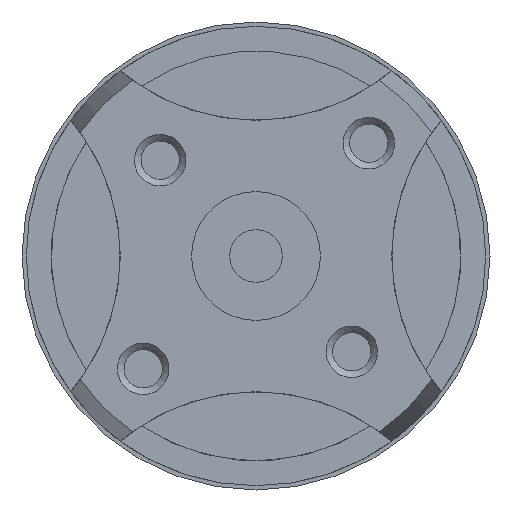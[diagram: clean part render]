
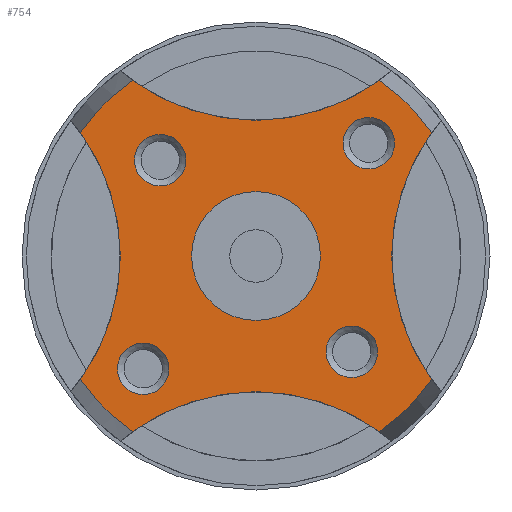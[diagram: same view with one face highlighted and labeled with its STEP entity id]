
A CAD part, front view. The second image highlights one B-rep face of the part: STEP entity #754.
In plain terms, the highlighted planar face has unit normal (0, -1, 0).
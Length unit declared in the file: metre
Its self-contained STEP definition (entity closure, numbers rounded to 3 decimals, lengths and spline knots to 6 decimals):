
#37=PLANE('',#925);
#73=CIRCLE('',#854,0.01246);
#77=CIRCLE('',#859,0.01246);
#81=CIRCLE('',#864,0.01246);
#85=CIRCLE('',#869,0.01246);
#88=CIRCLE('',#873,0.0127);
#89=CIRCLE('',#875,0.0127);
#92=CIRCLE('',#879,0.0127);
#122=CIRCLE('',#924,0.0127);
#123=CIRCLE('',#926,0.001524);
#124=CIRCLE('',#927,0.001524);
#125=CIRCLE('',#928,0.001524);
#126=CIRCLE('',#929,0.001524);
#127=CIRCLE('',#930,0.00381);
#252=ORIENTED_EDGE('',*,*,#426,.F.);
#253=ORIENTED_EDGE('',*,*,#427,.F.);
#254=ORIENTED_EDGE('',*,*,#428,.F.);
#255=ORIENTED_EDGE('',*,*,#429,.F.);
#256=ORIENTED_EDGE('',*,*,#383,.F.);
#257=ORIENTED_EDGE('',*,*,#387,.T.);
#258=ORIENTED_EDGE('',*,*,#367,.F.);
#259=ORIENTED_EDGE('',*,*,#391,.T.);
#260=ORIENTED_EDGE('',*,*,#359,.F.);
#261=ORIENTED_EDGE('',*,*,#425,.T.);
#262=ORIENTED_EDGE('',*,*,#375,.F.);
#263=ORIENTED_EDGE('',*,*,#388,.T.);
#264=ORIENTED_EDGE('',*,*,#430,.F.);
#359=EDGE_CURVE('',#460,#461,#73,.T.);
#367=EDGE_CURVE('',#468,#469,#77,.T.);
#375=EDGE_CURVE('',#476,#477,#81,.T.);
#383=EDGE_CURVE('',#484,#485,#85,.T.);
#387=EDGE_CURVE('',#484,#469,#88,.T.);
#388=EDGE_CURVE('',#476,#485,#89,.T.);
#391=EDGE_CURVE('',#468,#461,#92,.T.);
#425=EDGE_CURVE('',#460,#477,#122,.T.);
#426=EDGE_CURVE('',#507,#507,#123,.T.);
#427=EDGE_CURVE('',#508,#508,#124,.T.);
#428=EDGE_CURVE('',#509,#509,#125,.T.);
#429=EDGE_CURVE('',#510,#510,#126,.T.);
#430=EDGE_CURVE('',#511,#511,#127,.T.);
#460=VERTEX_POINT('',#1269);
#461=VERTEX_POINT('',#1271);
#468=VERTEX_POINT('',#1292);
#469=VERTEX_POINT('',#1294);
#476=VERTEX_POINT('',#1315);
#477=VERTEX_POINT('',#1317);
#484=VERTEX_POINT('',#1338);
#485=VERTEX_POINT('',#1340);
#507=VERTEX_POINT('',#1463);
#508=VERTEX_POINT('',#1465);
#509=VERTEX_POINT('',#1467);
#510=VERTEX_POINT('',#1469);
#511=VERTEX_POINT('',#1471);
#575=EDGE_LOOP('',(#252));
#576=EDGE_LOOP('',(#253));
#577=EDGE_LOOP('',(#254));
#578=EDGE_LOOP('',(#255));
#579=EDGE_LOOP('',(#256,#257,#258,#259,#260,#261,#262,#263));
#580=EDGE_LOOP('',(#264));
#659=FACE_BOUND('',#575,.T.);
#660=FACE_BOUND('',#576,.T.);
#661=FACE_BOUND('',#577,.T.);
#662=FACE_BOUND('',#578,.T.);
#663=FACE_BOUND('',#579,.T.);
#664=FACE_BOUND('',#580,.T.);
#754=ADVANCED_FACE('',(#659,#660,#661,#662,#663,#664),#37,.T.);
#854=AXIS2_PLACEMENT_3D('',#1270,#992,#993);
#859=AXIS2_PLACEMENT_3D('',#1293,#1004,#1005);
#864=AXIS2_PLACEMENT_3D('',#1316,#1016,#1017);
#869=AXIS2_PLACEMENT_3D('',#1339,#1028,#1029);
#873=AXIS2_PLACEMENT_3D('',#1349,#1036,#1037);
#875=AXIS2_PLACEMENT_3D('',#1351,#1040,#1041);
#879=AXIS2_PLACEMENT_3D('',#1355,#1048,#1049);
#924=AXIS2_PLACEMENT_3D('',#1460,#1138,#1139);
#925=AXIS2_PLACEMENT_3D('',#1461,#1140,#1141);
#926=AXIS2_PLACEMENT_3D('',#1462,#1142,#1143);
#927=AXIS2_PLACEMENT_3D('',#1464,#1144,#1145);
#928=AXIS2_PLACEMENT_3D('',#1466,#1146,#1147);
#929=AXIS2_PLACEMENT_3D('',#1468,#1148,#1149);
#930=AXIS2_PLACEMENT_3D('',#1470,#1150,#1151);
#992=DIRECTION('',(0.,-1.,0.));
#993=DIRECTION('',(0.,0.,-1.));
#1004=DIRECTION('',(0.,-1.,0.));
#1005=DIRECTION('',(0.,0.,-1.));
#1016=DIRECTION('',(0.,-1.,0.));
#1017=DIRECTION('',(0.,0.,-1.));
#1028=DIRECTION('',(0.,-1.,0.));
#1029=DIRECTION('',(0.,0.,-1.));
#1036=DIRECTION('',(0.,-1.,0.));
#1037=DIRECTION('',(0.,0.,-1.));
#1040=DIRECTION('',(0.,-1.,0.));
#1041=DIRECTION('',(0.,0.,-1.));
#1048=DIRECTION('',(0.,-1.,0.));
#1049=DIRECTION('',(0.,0.,-1.));
#1138=DIRECTION('',(0.,-1.,0.));
#1139=DIRECTION('',(0.,0.,-1.));
#1140=DIRECTION('',(0.,-1.,0.));
#1141=DIRECTION('',(0.,0.,-1.));
#1142=DIRECTION('',(0.,-1.,0.));
#1143=DIRECTION('',(0.,0.,-1.));
#1144=DIRECTION('',(0.,-1.,0.));
#1145=DIRECTION('',(0.,0.,-1.));
#1146=DIRECTION('',(0.,-1.,0.));
#1147=DIRECTION('',(0.,0.,-1.));
#1148=DIRECTION('',(0.,-1.,0.));
#1149=DIRECTION('',(0.,0.,-1.));
#1150=DIRECTION('',(0.,-1.,0.));
#1151=DIRECTION('',(0.,0.,-1.));
#1269=CARTESIAN_POINT('',(-0.007303,-0.02667,0.010391));
#1270=CARTESIAN_POINT('',(0.,-0.02667,0.020487));
#1271=CARTESIAN_POINT('',(0.007303,-0.02667,0.010391));
#1292=CARTESIAN_POINT('',(0.010391,-0.02667,0.007303));
#1293=CARTESIAN_POINT('',(0.020487,-0.02667,0.));
#1294=CARTESIAN_POINT('',(0.010391,-0.02667,-0.007303));
#1315=CARTESIAN_POINT('',(-0.010391,-0.02667,-0.007303));
#1316=CARTESIAN_POINT('',(-0.020487,-0.02667,0.));
#1317=CARTESIAN_POINT('',(-0.010391,-0.02667,0.007303));
#1338=CARTESIAN_POINT('',(0.007303,-0.02667,-0.010391));
#1339=CARTESIAN_POINT('',(0.,-0.02667,-0.020487));
#1340=CARTESIAN_POINT('',(-0.007303,-0.02667,-0.010391));
#1349=CARTESIAN_POINT('',(0.,-0.02667,0.));
#1351=CARTESIAN_POINT('',(0.,-0.02667,0.));
#1355=CARTESIAN_POINT('',(0.,-0.02667,0.));
#1460=CARTESIAN_POINT('',(0.,-0.02667,0.));
#1461=CARTESIAN_POINT('',(0.0127,-0.02667,0.));
#1462=CARTESIAN_POINT('',(-0.005667,-0.02667,0.005667));
#1463=CARTESIAN_POINT('',(-0.005667,-0.02667,0.004143));
#1464=CARTESIAN_POINT('',(0.006672,-0.02667,0.006672));
#1465=CARTESIAN_POINT('',(0.006672,-0.02667,0.005148));
#1466=CARTESIAN_POINT('',(0.005667,-0.02667,-0.005667));
#1467=CARTESIAN_POINT('',(0.005667,-0.02667,-0.007191));
#1468=CARTESIAN_POINT('',(-0.006672,-0.02667,-0.006672));
#1469=CARTESIAN_POINT('',(-0.006672,-0.02667,-0.008196));
#1470=CARTESIAN_POINT('',(0.,-0.02667,0.));
#1471=CARTESIAN_POINT('',(0.,-0.02667,-0.00381));
